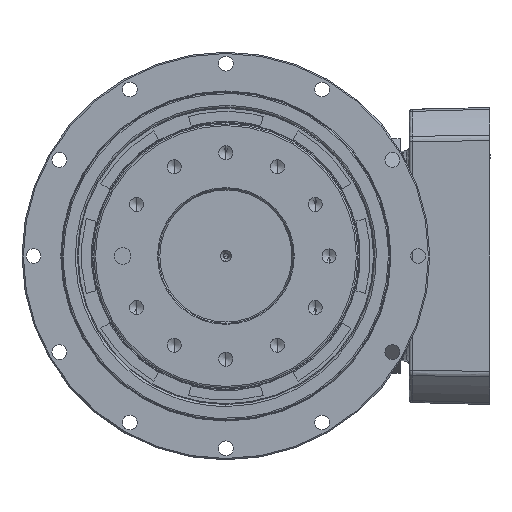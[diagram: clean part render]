
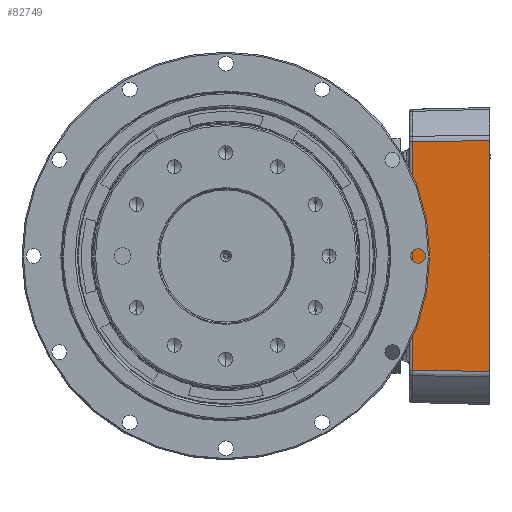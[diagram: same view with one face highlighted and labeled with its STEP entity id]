
A CAD part, left-side view. The second image highlights one B-rep face of the part: STEP entity #82749.
In plain terms, the highlighted planar face has unit normal (-1, 0.026, 0) as drawn and (-0.026, 1, 0) by its records, which use the part's own axes.
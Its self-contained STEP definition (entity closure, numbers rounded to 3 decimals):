
#5816 = DIRECTION ( 'NONE',  ( 0., 0., -1. ) ) ;
#10847 = VECTOR ( 'NONE', #96008, 1000. ) ;
#11170 = LINE ( 'NONE', #95080, #26530 ) ;
#13428 = EDGE_CURVE ( 'NONE', #89891, #24323, #11170, .T. ) ;
#17469 = VERTEX_POINT ( 'NONE', #60790 ) ;
#21091 = FACE_OUTER_BOUND ( 'NONE', #45842, .T. ) ;
#22571 = EDGE_CURVE ( 'NONE', #17469, #72071, #103189, .T. ) ;
#24323 = VERTEX_POINT ( 'NONE', #92369 ) ;
#26530 = VECTOR ( 'NONE', #5816, 1000. ) ;
#28037 = CARTESIAN_POINT ( 'NONE',  ( 29., 90., 71.589 ) ) ;
#30524 = AXIS2_PLACEMENT_3D ( 'NONE', #28037, #61755, #60696 ) ;
#30734 = LINE ( 'NONE', #63425, #10847 ) ;
#35536 = EDGE_CURVE ( 'NONE', #72071, #24323, #30734, .T. ) ;
#45842 = EDGE_LOOP ( 'NONE', ( #79665, #73930, #63913, #70562 ) ) ;
#57717 = LINE ( 'NONE', #66764, #79709 ) ;
#60696 = DIRECTION ( 'NONE',  ( -1., -0.026, 0. ) ) ;
#60790 = CARTESIAN_POINT ( 'NONE',  ( 29., 90., 69.822 ) ) ;
#61755 = DIRECTION ( 'NONE',  ( -0.026, 1., 0. ) ) ;
#63425 = CARTESIAN_POINT ( 'NONE',  ( -18.052, 88.768, -69.379 ) ) ;
#63732 = VECTOR ( 'NONE', #69575, 1000. ) ;
#63913 = ORIENTED_EDGE ( 'NONE', *, *, #13428, .F. ) ;
#66764 = CARTESIAN_POINT ( 'NONE',  ( 29., 90., 69.822 ) ) ;
#68713 = PLANE ( 'NONE',  #30524 ) ;
#69575 = DIRECTION ( 'NONE',  ( 0., 0., -1. ) ) ;
#69704 = EDGE_CURVE ( 'NONE', #17469, #89891, #57717, .T. ) ;
#70562 = ORIENTED_EDGE ( 'NONE', *, *, #69704, .F. ) ;
#72071 = VERTEX_POINT ( 'NONE', #73238 ) ;
#73238 = CARTESIAN_POINT ( 'NONE',  ( 29., 90., -69.822 ) ) ;
#73930 = ORIENTED_EDGE ( 'NONE', *, *, #35536, .T. ) ;
#75334 = DIRECTION ( 'NONE',  ( -1., -0.026, -0.009 ) ) ;
#79638 = CARTESIAN_POINT ( 'NONE',  ( 29., 90., 71.589 ) ) ;
#79665 = ORIENTED_EDGE ( 'NONE', *, *, #22571, .T. ) ;
#79709 = VECTOR ( 'NONE', #75334, 1000. ) ;
#82749 = ADVANCED_FACE ( 'NONE', ( #21091 ), #68713, .T. ) ;
#84499 = CARTESIAN_POINT ( 'NONE',  ( -18.052, 88.768, 69.379 ) ) ;
#89891 = VERTEX_POINT ( 'NONE', #84499 ) ;
#92369 = CARTESIAN_POINT ( 'NONE',  ( -18.052, 88.768, -69.379 ) ) ;
#95080 = CARTESIAN_POINT ( 'NONE',  ( -18.052, 88.768, 71.589 ) ) ;
#96008 = DIRECTION ( 'NONE',  ( -1., -0.026, 0.009 ) ) ;
#103189 = LINE ( 'NONE', #79638, #63732 ) ;
